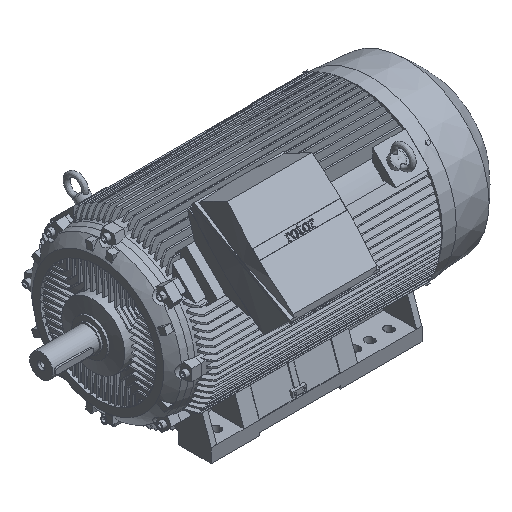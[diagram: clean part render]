
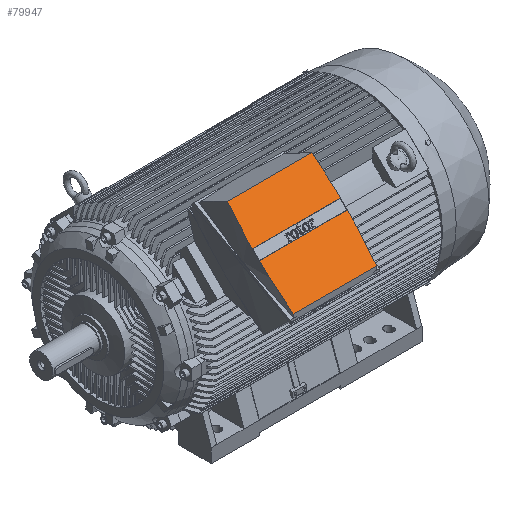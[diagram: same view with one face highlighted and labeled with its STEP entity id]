
A CAD part, isometric view. The second image highlights one B-rep face of the part: STEP entity #79947.
In plain terms, the highlighted planar face has unit normal (0, -0.707, 0.707).
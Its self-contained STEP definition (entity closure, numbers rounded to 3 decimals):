
#541 = DIRECTION ( 'NONE',  ( -1., 0., 0. ) ) ;
#688 = PLANE ( 'NONE',  #19126 ) ;
#2150 = ORIENTED_EDGE ( 'NONE', *, *, #62143, .T. ) ;
#2505 = LINE ( 'NONE', #15298, #17239 ) ;
#4053 = DIRECTION ( 'NONE',  ( 1., 0., 0. ) ) ;
#7887 = VERTEX_POINT ( 'NONE', #47497 ) ;
#9369 = VERTEX_POINT ( 'NONE', #79498 ) ;
#11454 = ORIENTED_EDGE ( 'NONE', *, *, #63368, .F. ) ;
#13033 = VERTEX_POINT ( 'NONE', #37586 ) ;
#14140 = EDGE_LOOP ( 'NONE', ( #51890, #59626, #2150, #28932 ) ) ;
#14215 = DIRECTION ( 'NONE',  ( 0., 0.707, -0.707 ) ) ;
#15298 = CARTESIAN_POINT ( 'NONE',  ( 85., -420.021, 379.009 ) ) ;
#15799 = VECTOR ( 'NONE', #541, 1000. ) ;
#16267 = FACE_OUTER_BOUND ( 'NONE', #71639, .T. ) ;
#17171 = VERTEX_POINT ( 'NONE', #61793 ) ;
#17239 = VECTOR ( 'NONE', #42433, 1000. ) ;
#17310 = LINE ( 'NONE', #34430, #15799 ) ;
#19126 = AXIS2_PLACEMENT_3D ( 'NONE', #62071, #21856, #68792 ) ;
#19483 = CARTESIAN_POINT ( 'NONE',  ( 399.431, -309.713, 489.318 ) ) ;
#21856 = DIRECTION ( 'NONE',  ( 0., -0.707, 0.707 ) ) ;
#23432 = CARTESIAN_POINT ( 'NONE',  ( 93.023, -548.008, 251.023 ) ) ;
#25081 = CARTESIAN_POINT ( 'NONE',  ( 1808.3, -420.021, 379.009 ) ) ;
#28932 = ORIENTED_EDGE ( 'NONE', *, *, #62253, .T. ) ;
#30968 = VERTEX_POINT ( 'NONE', #62501 ) ;
#31829 = DIRECTION ( 'NONE',  ( 0., 0.707, 0.707 ) ) ;
#34430 = CARTESIAN_POINT ( 'NONE',  ( 245., -432.396, 366.635 ) ) ;
#37586 = CARTESIAN_POINT ( 'NONE',  ( 405., -432.396, 366.635 ) ) ;
#38390 = ORIENTED_EDGE ( 'NONE', *, *, #63123, .F. ) ;
#41585 = AXIS2_PLACEMENT_3D ( 'NONE', #54790, #14215, #61437 ) ;
#42433 = DIRECTION ( 'NONE',  ( 0., 0.707, 0.707 ) ) ;
#42739 = AXIS2_PLACEMENT_3D ( 'NONE', #25081, #71972, #31829 ) ;
#44359 = CARTESIAN_POINT ( 'NONE',  ( 408.5, -309.713, 489.318 ) ) ;
#45038 = CARTESIAN_POINT ( 'NONE',  ( 245., -407.647, 391.384 ) ) ;
#47497 = CARTESIAN_POINT ( 'NONE',  ( 396.977, -548.008, 251.023 ) ) ;
#49861 = ORIENTED_EDGE ( 'NONE', *, *, #63003, .T. ) ;
#49878 = CIRCLE ( 'NONE', #41585, 1724.8 ) ;
#51070 = DIRECTION ( 'NONE',  ( -1., 0., 0. ) ) ;
#51728 = CARTESIAN_POINT ( 'NONE',  ( 405., -420.021, 379.009 ) ) ;
#51890 = ORIENTED_EDGE ( 'NONE', *, *, #62472, .T. ) ;
#54169 = VECTOR ( 'NONE', #51070, 1000. ) ;
#54350 = LINE ( 'NONE', #44359, #54169 ) ;
#54790 = CARTESIAN_POINT ( 'NONE',  ( -1318.3, -420.021, 379.009 ) ) ;
#56442 = CARTESIAN_POINT ( 'NONE',  ( 85., -407.647, 391.384 ) ) ;
#58406 = DIRECTION ( 'NONE',  ( 0., -0.707, -0.707 ) ) ;
#59626 = ORIENTED_EDGE ( 'NONE', *, *, #62487, .T. ) ;
#60987 = CIRCLE ( 'NONE', #42739, 1724.8 ) ;
#61437 = DIRECTION ( 'NONE',  ( 0., 0.707, 0.707 ) ) ;
#61793 = CARTESIAN_POINT ( 'NONE',  ( 405., -407.647, 391.384 ) ) ;
#62071 = CARTESIAN_POINT ( 'NONE',  ( 245., -420.021, 379.009 ) ) ;
#62143 = EDGE_CURVE ( 'NONE', #13033, #30968, #17310, .T. ) ;
#62253 = EDGE_CURVE ( 'NONE', #30968, #67862, #2505, .T. ) ;
#62472 = EDGE_CURVE ( 'NONE', #67862, #17171, #72713, .T. ) ;
#62480 = VECTOR ( 'NONE', #66940, 1000. ) ;
#62487 = EDGE_CURVE ( 'NONE', #17171, #13033, #83271, .T. ) ;
#62501 = CARTESIAN_POINT ( 'NONE',  ( 85., -432.396, 366.635 ) ) ;
#63003 = EDGE_CURVE ( 'NONE', #83292, #9369, #54350, .T. ) ;
#63031 = ORIENTED_EDGE ( 'NONE', *, *, #63227, .T. ) ;
#63123 = EDGE_CURVE ( 'NONE', #73833, #9369, #60987, .T. ) ;
#63227 = EDGE_CURVE ( 'NONE', #73833, #7887, #78065, .T. ) ;
#63368 = EDGE_CURVE ( 'NONE', #83292, #7887, #49878, .T. ) ;
#66940 = DIRECTION ( 'NONE',  ( 1., 0., 0. ) ) ;
#67862 = VERTEX_POINT ( 'NONE', #56442 ) ;
#68792 = DIRECTION ( 'NONE',  ( 0., -0.707, -0.707 ) ) ;
#71639 = EDGE_LOOP ( 'NONE', ( #49861, #38390, #63031, #11454 ) ) ;
#71972 = DIRECTION ( 'NONE',  ( 0., 0.707, -0.707 ) ) ;
#72713 = LINE ( 'NONE', #45038, #83497 ) ;
#73833 = VERTEX_POINT ( 'NONE', #23432 ) ;
#78065 = LINE ( 'NONE', #86598, #62480 ) ;
#79498 = CARTESIAN_POINT ( 'NONE',  ( 90.569, -309.713, 489.318 ) ) ;
#79947 = ADVANCED_FACE ( 'NONE', ( #16267, #80001 ), #688, .T. ) ;
#80001 = FACE_BOUND ( 'NONE', #14140, .T. ) ;
#83271 = LINE ( 'NONE', #51728, #86475 ) ;
#83292 = VERTEX_POINT ( 'NONE', #19483 ) ;
#83497 = VECTOR ( 'NONE', #4053, 1000. ) ;
#86475 = VECTOR ( 'NONE', #58406, 1000. ) ;
#86598 = CARTESIAN_POINT ( 'NONE',  ( 408.5, -548.008, 251.023 ) ) ;
